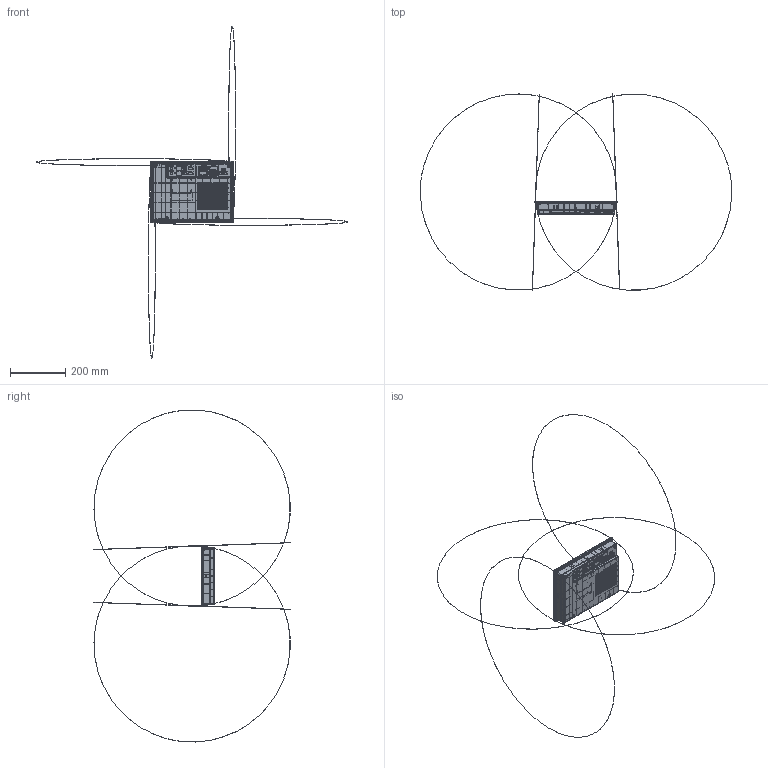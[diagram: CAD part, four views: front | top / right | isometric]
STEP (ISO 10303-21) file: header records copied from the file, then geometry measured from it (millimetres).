
FILE_DESCRIPTION((''),'2;1');
FILE_NAME('DOP-B10S511_ASM','2015-06-10T',('YY.CHENG'),(''),'PRO/ENGINEER BY PARAMETRIC TECHNOLOGY CORPORATION, 2010330','PRO/ENGINEER BY PARAMETRIC TECHNOLOGY CORPORATION, 2010330','');
FILE_SCHEMA(('CONFIG_CONTROL_DESIGN'));
Products named in the file (2): _DOP-B10S511; DOP-B10S511_ASM
Assembly tree (1 placements, depth 2):
  DOP-B10S511_ASM
    _DOP-B10S511
Bounding box: 1131.18 x 712.31 x 1206.18 mm (x, y, z)
Topology: 0 solids, 0 shells, 4549 faces, 23888 edges, 23648 vertices
Faces by surface type: bspline 4343, torus 132, sphere 74
Entity records: 345499 total; most frequent: CARTESIAN_POINT 135424, DIRECTION 31429, TRIMMED_CURVE 29120, VECTOR 27229, LINE 27229, DEFINITIONAL_REPRESENTATION 23553, PCURVE 23553, COMPOSITE_CURVE_SEGMENT 23553
